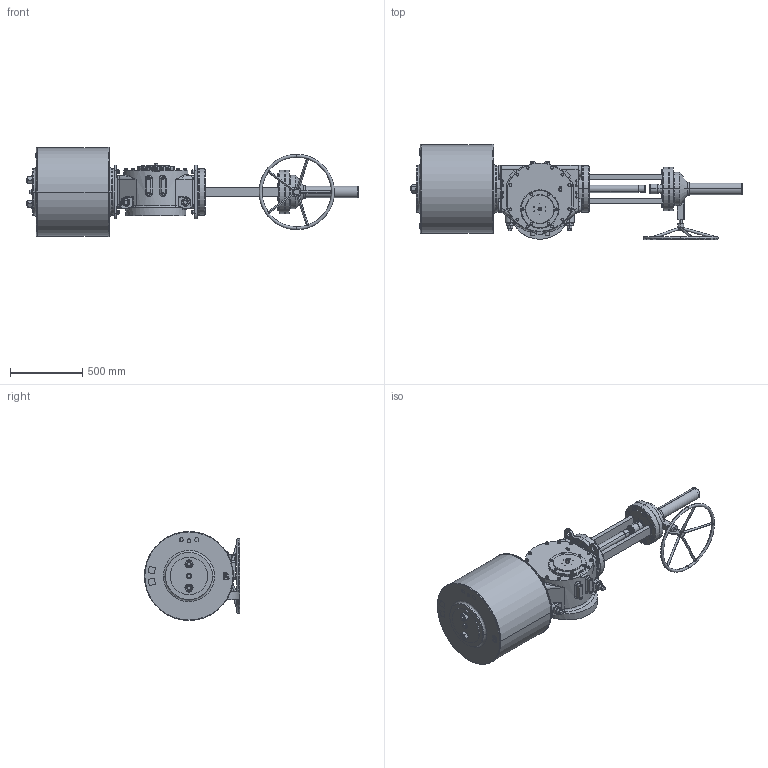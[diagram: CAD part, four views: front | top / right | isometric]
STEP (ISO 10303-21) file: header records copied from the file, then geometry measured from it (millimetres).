
FILE_DESCRIPTION (( 'STEP AP203' ), '1' );
FILE_NAME ('VTS5-600-MGD.STEP', '2023-01-01T09:52:24', ( '' ), ( '' ), 'SwSTEP 2.0', 'SolidWorks 2020', '' );
FILE_SCHEMA (( 'CONFIG_CONTROL_DESIGN' ));
Products named in the file (1): VTS5-600-MGD
Bounding box: 2295.5 x 658 x 616 mm (x, y, z)
Volume: 232967517.3 mm3; surface area: 4815828.4 mm2
Topology: 79 solids, 82 shells, 3535 faces, 8706 edges, 5454 vertices
Faces by surface type: plane 1524, cylinder 1066, cone 798, bspline 115, torus 32
Entity records: 124701 total; most frequent: CARTESIAN_POINT 42256, DIRECTION 17254, ORIENTED_EDGE 17192, EDGE_CURVE 8596, AXIS2_PLACEMENT_3D 6857, VERTEX_POINT 5454, EDGE_LOOP 3986, LINE 3540
